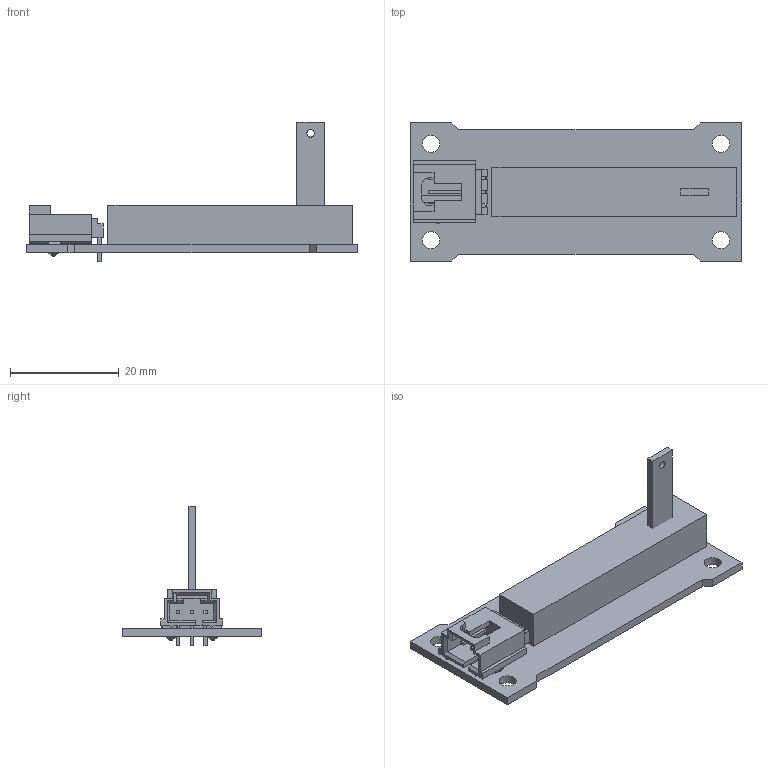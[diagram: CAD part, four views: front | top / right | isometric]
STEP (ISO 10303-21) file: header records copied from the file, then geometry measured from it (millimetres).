
FILE_DESCRIPTION(/* description */ ('Alibre Inc.'),/* implementation_level */ '2;1');
FILE_NAME(/* name */ 'export-F07D8375-0787-4322-943F-D2E4017FA743',/* time_stamp */ '2022-08-25T15:44:41-06:00',/* author */ (''),/* organization */ (''),/* preprocessor_version */ 'ST-DEVELOPER v17',/* originating_system */ 'Alibre',/* authorisation */ '');
FILE_SCHEMA (('CONFIG_CONTROL_DESIGN'));
Length unit declared in the file: millimetre
Products named in the file (11): Board; Extruded; 5648817920; 5648817728; R1; Open CASCADE STEP translator 6.8 1.3.1.1; Open CASCADE STEP translator 6.8 1.3.1.2; 705550072; J1; PCB
Bounding box: 60.96 x 25.4 x 25.65 mm (x, y, z)
Volume: 5645.9 mm3; surface area: 5917.2 mm2
Topology: 4 solids, 4 shells, 197 faces, 539 edges, 348 vertices
Faces by surface type: plane 163, cylinder 26, cone 4, bspline 4
Full cylindrical faces by diameter (mm): 1.09 x3, 1.1 x6, 1.4 x1, 2 x2, 3.175 x4, 3.683 x2
Entity records: 7373 total; most frequent: CARTESIAN_POINT 1387, ORIENTED_EDGE 1068, DIRECTION 829, EDGE_CURVE 534, VECTOR 446, LINE 446, VERTEX_POINT 348, AXIS2_PLACEMENT_3D 273
